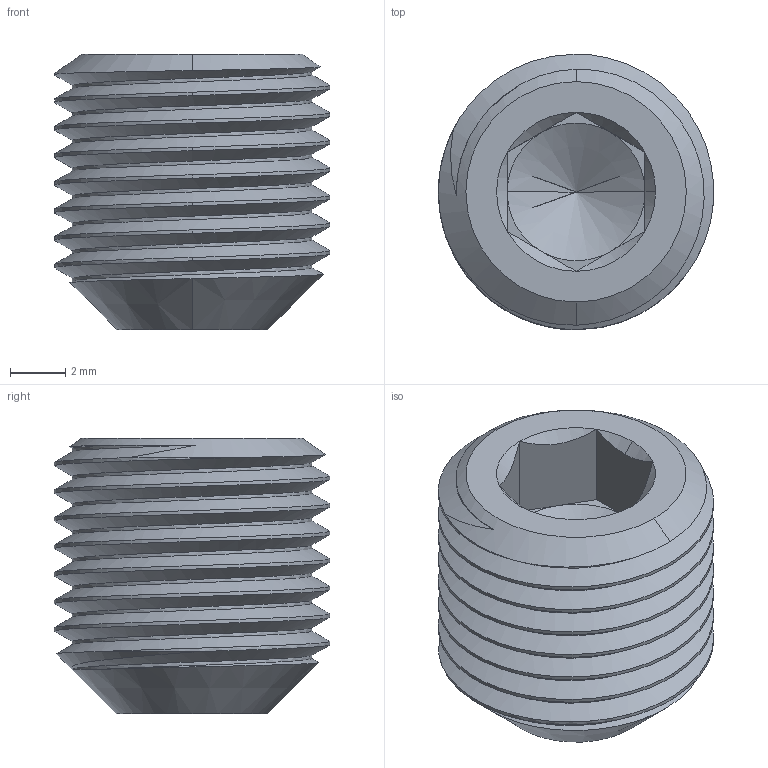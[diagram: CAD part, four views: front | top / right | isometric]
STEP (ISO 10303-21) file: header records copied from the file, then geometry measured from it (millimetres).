
FILE_DESCRIPTION (( 'STEP AP203' ), '1' );
FILE_NAME ('Cup-Point Set Screw 10x10 pitch 1mm.STEP', '2025-09-25T16:36:39', ( '' ), ( '' ), 'SwSTEP 2.0', 'SolidWorks 2024', '' );
FILE_SCHEMA (( 'CONFIG_CONTROL_DESIGN' ));
Length unit declared in the file: millimetre
Products named in the file (1): Cup-Point Set Screw 10x10 pitch 1mm
Bounding box: 9.99 x 10 x 10 mm (x, y, z)
Volume: 544.2 mm3; surface area: 608.8 mm2
Topology: 1 solids, 1 shells, 47 faces, 116 edges, 68 vertices
Faces by surface type: cone 16, cylinder 15, plane 13, bspline 3
Entity records: 3052 total; most frequent: CARTESIAN_POINT 2024, ORIENTED_EDGE 224, DIRECTION 170, EDGE_CURVE 112, VERTEX_POINT 68, AXIS2_PLACEMENT_3D 64, EDGE_LOOP 48, FACE_OUTER_BOUND 47
